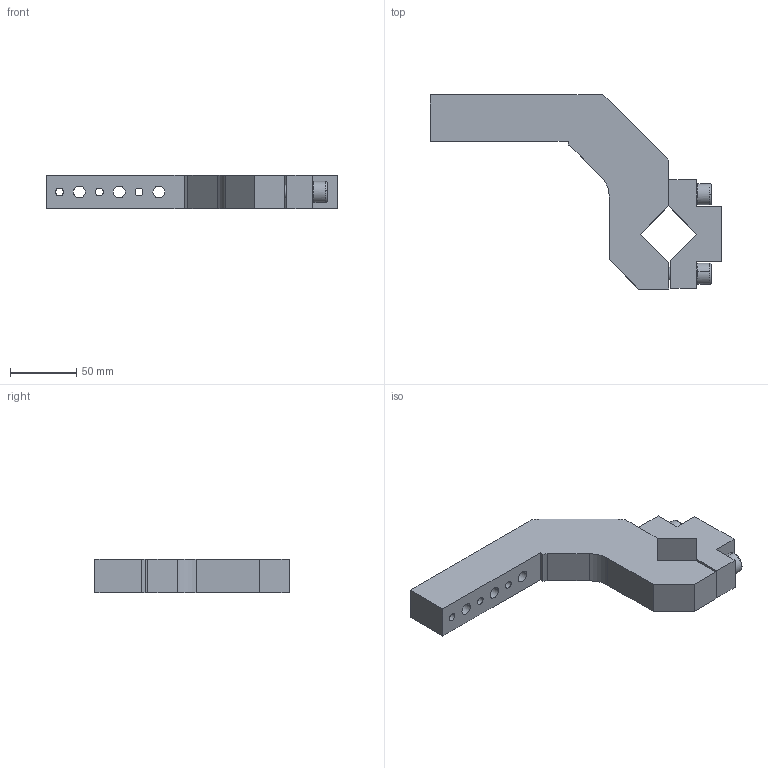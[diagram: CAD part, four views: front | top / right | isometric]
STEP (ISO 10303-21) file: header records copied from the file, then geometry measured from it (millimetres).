
FILE_DESCRIPTION((''),'2;1');
FILE_NAME('S:\Matthew\Step Files\XM Clamp Arms\XJ80-03.stp','2006-06-28T08:19:51',('Matthew'),(''),'Autodesk Inventor 8','Autodesk Inventor 8','');
FILE_SCHEMA(('AUTOMOTIVE_DESIGN { 1 0 10303 214 1 1 1 1 }'));
Length unit declared in the file: millimetre
Products named in the file (1): XJ80-03
Bounding box: 220 x 146.5 x 25 mm (x, y, z)
Volume: 294831 mm3; surface area: 50747.9 mm2
Topology: 1 solids, 1 shells, 183 faces, 620 edges, 395 vertices
Faces by surface type: plane 141, cylinder 22, bspline 16, cone 4
Entity records: 7192 total; most frequent: CARTESIAN_POINT 1607, ORIENTED_EDGE 1232, DIRECTION 1187, EDGE_CURVE 616, AXIS2_PLACEMENT_3D 419, VERTEX_POINT 395, VECTOR 349, LINE 349
